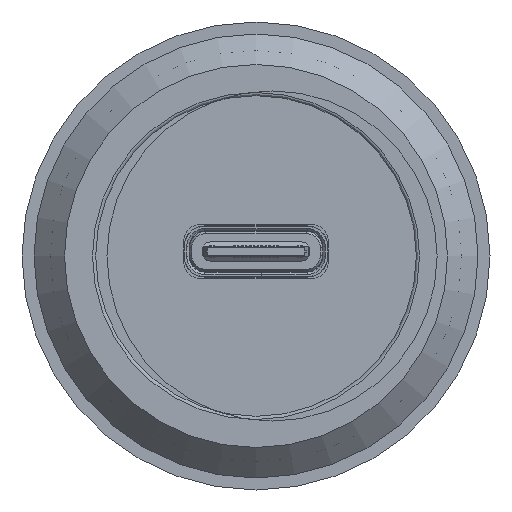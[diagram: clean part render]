
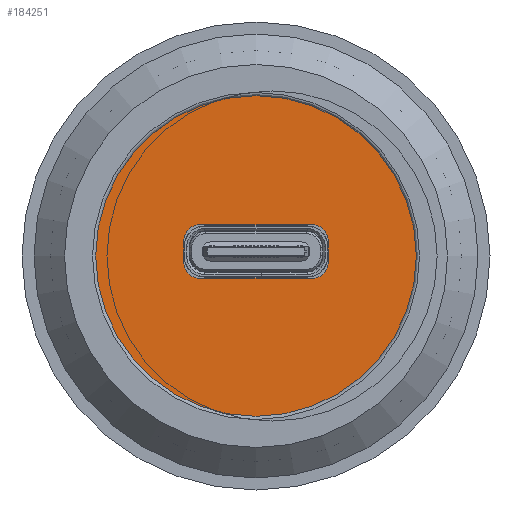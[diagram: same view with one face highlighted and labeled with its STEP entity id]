
A CAD part, front view. The second image highlights one B-rep face of the part: STEP entity #184251.
In plain terms, the highlighted planar face has unit normal (0, -1, 0).
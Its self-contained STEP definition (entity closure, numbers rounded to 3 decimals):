
#184035 = VERTEX_POINT('',#184036);
#184036 = CARTESIAN_POINT('',(-4.5,-6.5,0.95));
#184042 = EDGE_CURVE('',#184035,#184043,#184045,.T.);
#184043 = VERTEX_POINT('',#184044);
#184044 = CARTESIAN_POINT('',(-4.5,-6.5,-0.4));
#184045 = LINE('',#184046,#184047);
#184046 = CARTESIAN_POINT('',(-4.5,-6.5,-0.7));
#184047 = VECTOR('',#184048,1.);
#184048 = DIRECTION('',(0.,0.,-1.));
#184066 = EDGE_CURVE('',#184067,#184043,#184069,.T.);
#184067 = VERTEX_POINT('',#184068);
#184068 = CARTESIAN_POINT('',(-3.5,-6.5,-1.4));
#184069 = CIRCLE('',#184070,1.);
#184070 = AXIS2_PLACEMENT_3D('',#184071,#184072,#184073);
#184071 = CARTESIAN_POINT('',(-3.5,-6.5,-0.4));
#184072 = DIRECTION('',(0.,1.,-0.));
#184073 = DIRECTION('',(-1.,0.,0.));
#184092 = EDGE_CURVE('',#184067,#184093,#184095,.T.);
#184093 = VERTEX_POINT('',#184094);
#184094 = CARTESIAN_POINT('',(3.5,-6.5,-1.4));
#184095 = LINE('',#184096,#184097);
#184096 = CARTESIAN_POINT('',(-2.25,-6.5,-1.4));
#184097 = VECTOR('',#184098,1.);
#184098 = DIRECTION('',(1.,0.,0.));
#184115 = VERTEX_POINT('',#184116);
#184116 = CARTESIAN_POINT('',(4.5,-6.5,-0.4));
#184122 = EDGE_CURVE('',#184115,#184093,#184123,.T.);
#184123 = CIRCLE('',#184124,1.);
#184124 = AXIS2_PLACEMENT_3D('',#184125,#184126,#184127);
#184125 = CARTESIAN_POINT('',(3.5,-6.5,-0.4));
#184126 = DIRECTION('',(-0.,1.,0.));
#184127 = DIRECTION('',(1.,0.,0.));
#184140 = VERTEX_POINT('',#184141);
#184141 = CARTESIAN_POINT('',(4.5,-6.5,0.95));
#184147 = EDGE_CURVE('',#184140,#184115,#184148,.T.);
#184148 = LINE('',#184149,#184150);
#184149 = CARTESIAN_POINT('',(4.5,-6.5,-0.7));
#184150 = VECTOR('',#184151,1.);
#184151 = DIRECTION('',(0.,0.,-1.));
#184164 = EDGE_CURVE('',#184165,#184140,#184167,.T.);
#184165 = VERTEX_POINT('',#184166);
#184166 = CARTESIAN_POINT('',(3.5,-6.5,1.95));
#184167 = CIRCLE('',#184168,1.);
#184168 = AXIS2_PLACEMENT_3D('',#184169,#184170,#184171);
#184169 = CARTESIAN_POINT('',(3.5,-6.5,0.95));
#184170 = DIRECTION('',(-0.,1.,0.));
#184171 = DIRECTION('',(1.,0.,0.));
#184190 = VERTEX_POINT('',#184191);
#184191 = CARTESIAN_POINT('',(-3.5,-6.5,1.95));
#184197 = EDGE_CURVE('',#184190,#184165,#184198,.T.);
#184198 = LINE('',#184199,#184200);
#184199 = CARTESIAN_POINT('',(-2.25,-6.5,1.95));
#184200 = VECTOR('',#184201,1.);
#184201 = DIRECTION('',(1.,0.,0.));
#184213 = EDGE_CURVE('',#184035,#184190,#184214,.T.);
#184214 = CIRCLE('',#184215,1.);
#184215 = AXIS2_PLACEMENT_3D('',#184216,#184217,#184218);
#184216 = CARTESIAN_POINT('',(-3.5,-6.5,0.95));
#184217 = DIRECTION('',(0.,1.,-0.));
#184218 = DIRECTION('',(-1.,0.,0.));
#184251 = ADVANCED_FACE('',(#184252,#184263),#184273,.F.);
#184252 = FACE_BOUND('',#184253,.F.);
#184253 = EDGE_LOOP('',(#184254));
#184254 = ORIENTED_EDGE('',*,*,#184255,.T.);
#184255 = EDGE_CURVE('',#184256,#184256,#184258,.T.);
#184256 = VERTEX_POINT('',#184257);
#184257 = CARTESIAN_POINT('',(10.,-6.5,0.));
#184258 = CIRCLE('',#184259,10.);
#184259 = AXIS2_PLACEMENT_3D('',#184260,#184261,#184262);
#184260 = CARTESIAN_POINT('',(0.,-6.5,0.));
#184261 = DIRECTION('',(-0.,1.,0.));
#184262 = DIRECTION('',(1.,0.,0.));
#184263 = FACE_BOUND('',#184264,.F.);
#184264 = EDGE_LOOP('',(#184265,#184266,#184267,#184268,#184269,#184270,
    #184271,#184272));
#184265 = ORIENTED_EDGE('',*,*,#184213,.F.);
#184266 = ORIENTED_EDGE('',*,*,#184042,.T.);
#184267 = ORIENTED_EDGE('',*,*,#184066,.F.);
#184268 = ORIENTED_EDGE('',*,*,#184092,.T.);
#184269 = ORIENTED_EDGE('',*,*,#184122,.F.);
#184270 = ORIENTED_EDGE('',*,*,#184147,.F.);
#184271 = ORIENTED_EDGE('',*,*,#184164,.F.);
#184272 = ORIENTED_EDGE('',*,*,#184197,.F.);
#184273 = PLANE('',#184274);
#184274 = AXIS2_PLACEMENT_3D('',#184275,#184276,#184277);
#184275 = CARTESIAN_POINT('',(0.,-6.5,0.));
#184276 = DIRECTION('',(0.,1.,0.));
#184277 = DIRECTION('',(1.,0.,0.));
